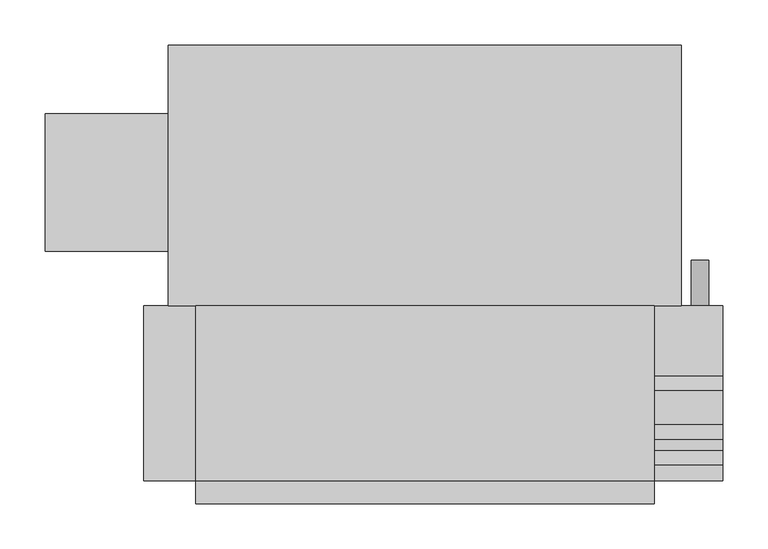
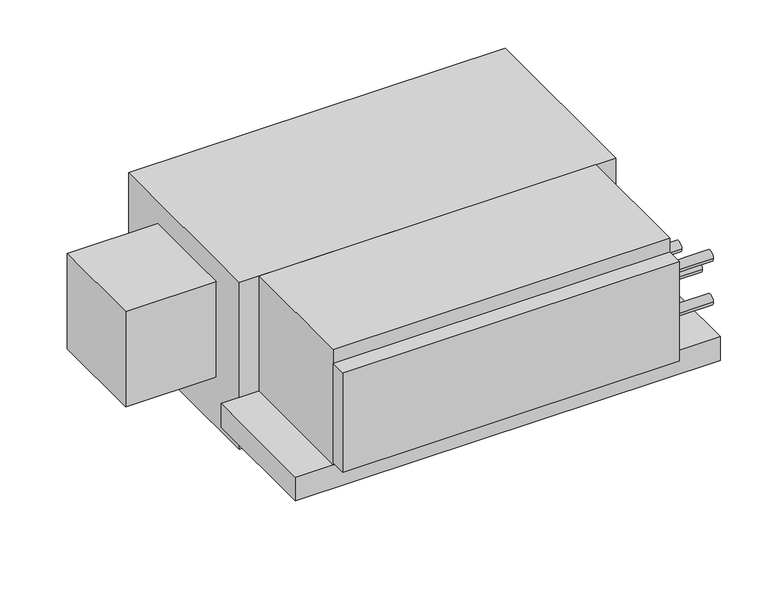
"""IFC4 building model written with IfcOpenShell, lengths in millimetres: proxy geometry, Concealed_Horizontal_Fan_Coil_Unit_With_Plenum_-_42CEA_-_CARRIER_-_4-Pipe_RH_2022 : Size 03 - 277v/60Hz/1Ph - 4/1 Coil."""

from ifc_helpers import new_model, si_unit, point, frame, frame_2d, origin, place, context, project, spatial, polyline, circle_curve, trimmed, segment, composite_curve, outline, extrude, source, transform, mapped, element, save


def mechanical_equipment_08db4194(model_context):
    return source(origin(), model_context, "Body", "SweptSolid", [
        extrude(outline(composite_curve([segment(trimmed(circle_curve(frame_2d((-209.55, 457.2)), 9.525), [point((-209.55, 447.675))], [point((-209.55, 466.725))], False, "CARTESIAN"), True, "CONTINUOUS"), segment(trimmed(circle_curve(frame_2d((-209.55, 457.2)), 9.525), [point((-209.55, 466.725))], [point((-209.55, 447.675))], False, "CARTESIAN"), True, "CONTINUOUS")], self_intersect=False)), frame((0.0, -141.2875, 0.0), z_axis=(0.0, 1.0, 0.0), x_axis=(0.0, 0.0, 1.0)), (0.0, 0.0, 1.0), 50.8),
        extrude(outline(composite_curve([segment(trimmed(circle_curve(frame_2d((-309.5625, -69.85)), 7.9375), [point((-317.5, -69.85))], [point((-301.625, -69.85))], False, "CARTESIAN"), True, "CONTINUOUS"), segment(trimmed(circle_curve(frame_2d((-309.5625, -69.85)), 7.9375), [point((-301.625, -69.85))], [point((-317.5, -69.85))], False, "CARTESIAN"), True, "CONTINUOUS")], self_intersect=False)), frame((406.4, 0.0, 0.0), z_axis=(1.0, 0.0, 0.0), x_axis=(0.0, 1.0, 0.0)), (0.0, 0.0, 1.0), 76.2),
        extrude(outline(composite_curve([segment(trimmed(circle_curve(frame_2d((-309.5625, -139.7)), 7.9375), [point((-317.5, -139.7))], [point((-301.625, -139.7))], False, "CARTESIAN"), True, "CONTINUOUS"), segment(trimmed(circle_curve(frame_2d((-309.5625, -139.7)), 7.9375), [point((-301.625, -139.7))], [point((-317.5, -139.7))], False, "CARTESIAN"), True, "CONTINUOUS")], self_intersect=False)), frame((406.4, 0.0, 0.0), z_axis=(1.0, 0.0, 0.0), x_axis=(0.0, 1.0, 0.0)), (0.0, 0.0, 1.0), 76.2),
        extrude(outline(composite_curve([segment(trimmed(circle_curve(frame_2d((-227.0125, -104.775)), 7.9375), [point((-234.95, -104.775))], [point((-219.075, -104.775))], False, "CARTESIAN"), True, "CONTINUOUS"), segment(trimmed(circle_curve(frame_2d((-227.0125, -104.775)), 7.9375), [point((-219.075, -104.775))], [point((-234.95, -104.775))], False, "CARTESIAN"), True, "CONTINUOUS")], self_intersect=False)), frame((406.4, 0.0, 0.0), z_axis=(1.0, 0.0, 0.0), x_axis=(0.0, 1.0, 0.0)), (0.0, 0.0, 1.0), 76.2),
        extrude(outline(composite_curve([segment(trimmed(circle_curve(frame_2d((-280.9875, -104.775)), 7.9375), [point((-288.925, -104.775))], [point((-273.05, -104.775))], False, "CARTESIAN"), True, "CONTINUOUS"), segment(trimmed(circle_curve(frame_2d((-280.9875, -104.775)), 7.9375), [point((-273.05, -104.775))], [point((-288.925, -104.775))], False, "CARTESIAN"), True, "CONTINUOUS")], self_intersect=False)), frame((406.4, 0.0, 0.0), z_axis=(1.0, 0.0, 0.0), x_axis=(0.0, 1.0, 0.0)), (0.0, 0.0, 1.0), 76.2),
        extrude(outline(polyline([(406.4, -334.9625), (406.4, -360.3625), (-101.6, -360.3625), (-101.6, -334.9625), (406.4, -334.9625)])), frame((0.0, 0.0, -180.975), z_axis=(0.0, 0.0, 1.0), x_axis=(1.0, 0.0, 0.0)), (0.0, 0.0, 1.0), 158.75),
        extrude(outline(polyline([(406.4, -334.9625), (-101.6, -334.9625), (-101.6, -141.2875), (406.4, -141.2875), (406.4, -334.9625)])), frame((0.0, 0.0, -184.15), z_axis=(0.0, 0.0, 1.0), x_axis=(1.0, 0.0, 0.0)), (0.0, 0.0, 1.0), 184.15),
        extrude(outline(polyline([(482.6, -141.2875), (482.6, -334.9625), (-158.75, -334.9625), (-158.75, -141.2875), (482.6, -141.2875)])), frame((0.0, 0.0, -222.25), z_axis=(0.0, 0.0, 1.0), x_axis=(1.0, 0.0, 0.0)), (0.0, 0.0, 1.0), 38.1),
        extrude(outline(polyline([(-268.2875, -80.9625), (-268.2875, 71.4375), (-131.7625, 71.4375), (-131.7625, -80.9625), (-268.2875, -80.9625)])), frame((0.0, 0.0, -187.325), z_axis=(0.0, 0.0, 1.0), x_axis=(1.0, 0.0, 0.0)), (0.0, 0.0, 1.0), 152.4),
        extrude(outline(polyline([(-131.7625, 147.6375), (436.5625, 147.6375), (436.5625, -141.2875), (-131.7625, -141.2875), (-131.7625, 147.6375)])), frame((0.0, 0.0, -266.7), z_axis=(0.0, 0.0, 1.0), x_axis=(1.0, 0.0, 0.0)), (0.0, 0.0, 1.0), 266.7),
    ])


if __name__ == "__main__":
    model = new_model("IFC4")
    model_context = context("Model", 3, world=origin())
    ifc_project = project(units=[si_unit("LENGTHUNIT", "METRE", prefix="MILLI")], contexts=[model_context])
    site = spatial("IfcSite", under=ifc_project)
    building = spatial("IfcBuilding", under=site)
    placement = place(None, origin())
    mechanical_equipment_shape = mechanical_equipment_08db4194(model_context)
    element("IfcBuildingElementProxy", 1, Name="Concealed_Horizontal_Fan_Coil_Unit_With_Plenum_-_42CEA_-_CARRIER_-_4-Pipe_RH_2022 : Size 03 - 277v/60Hz/1Ph - 4/1 Coil", ObjectType="Concealed_Horizontal_Fan_Coil_Unit_With_Plenum_-_42CEA_-_CARRIER_-_4-Pipe_RH_2022 : Size 03 - 277v/60Hz/1Ph - 4/1 Coil", at=placement, inside=building, context=model_context, shape_type="MappedRepresentation", body=[
        mapped(mechanical_equipment_shape, transform((0.0, 0.0, 0.0), x_axis=(1.0, 0.0, 0.0), y_axis=(0.0, 1.0, 0.0), z_axis=(0.0, 0.0, 1.0))),
    ])
    save(model, "model.ifc")
